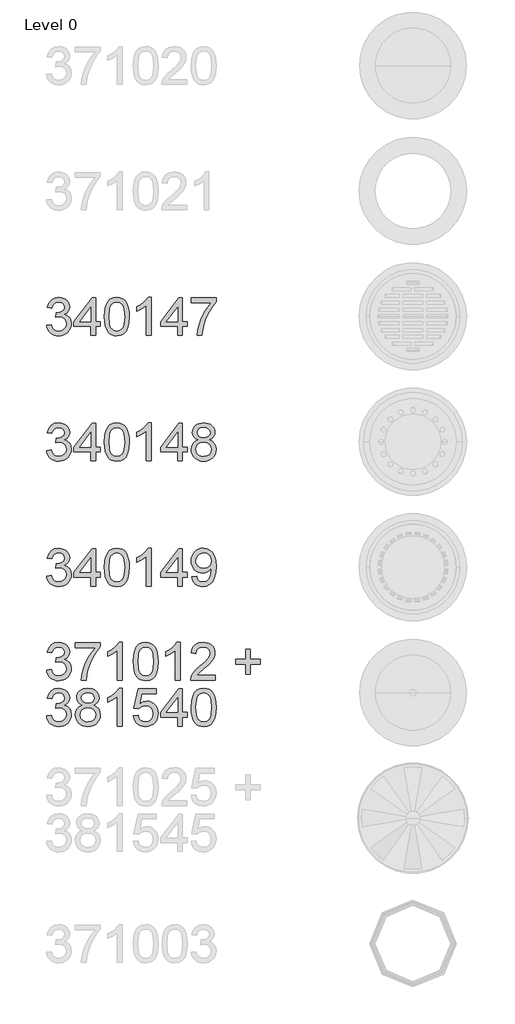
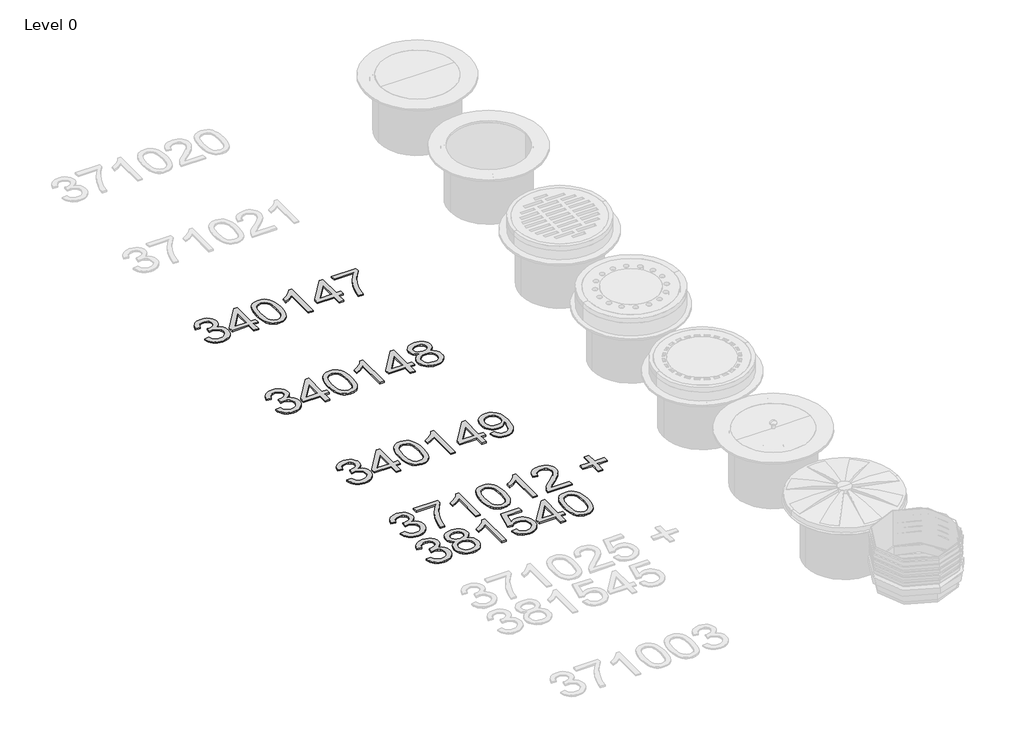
# One storey, part 23 of 25: 4 proxies.
"""IFC4 building model written with IfcOpenShell, lengths in millimetres."""

from ifc_helpers import new_model, si_unit, origin, origin_with_axes, place, context, project, spatial, polyline, outline, extrude, element, save

model = new_model("IFC4")

# Units and contexts
model_context = context("Model", 3, world=origin())
ifc_project = project(units=[si_unit("LENGTHUNIT", "METRE", prefix="MILLI")], contexts=[model_context])

# Site, building, storey
site = spatial("IfcSite", under=ifc_project)
building = spatial("IfcBuilding", under=site)
storey = spatial("IfcBuildingStorey", under=building, Name="Level 0", Elevation=0.0)

# Proxies
placement = place(None, origin())
element("IfcBuildingElementProxy", 1, Name="300mm Arial", ObjectType="300mm Arial", at=placement, inside=storey, context=model_context, shape_type="SweptSolid", body=[
    extrude(outline(polyline([(-3192.0538732, 3879.074324), (-3154.3827568, 3883.7832135), (-3145.9490621, 3860.1100071), (-3133.5974241, 3844.1255344), (-3116.7208376, 3835.020455), (-3094.7122972, 3831.9854286), (-3068.8869812, 3836.1608892), (-3048.947777, 3848.6872712), (-3036.2006659, 3867.3756765), (-3031.9516289, 3890.0372074), (-3036.1638777, 3911.5491071), (-3048.8006242, 3928.9959107), (-3067.930488, 3940.5566024), (-3091.6220885, 3944.4101663), (-3118.0360157, 3940.289888), (-3113.842161, 3977.9610043), (-3107.8088963, 3977.5195459), (-3085.2393359, 3980.2234785), (-3065.0610084, 3988.3352765), (-3050.8239752, 4002.057275), (-3046.0782975, 4021.5918089), (-3049.5179941, 4037.8613901), (-3059.8370841, 4051.0591567), (-3075.5824335, 4059.8055512), (-3095.3009084, 4062.721016), (-3115.0561716, 4059.77796), (-3131.2061912, 4050.9487921), (-3142.9968091, 4036.2335123), (-3149.6738673, 4015.6321206), (-3187.3449836, 4020.3410101), (-3176.2533415, 4054.1677596), (-3156.5164724, 4079.4228585), (-3129.513934, 4095.1498138), (-3096.6252836, 4100.3921323), (-3072.9428802, 4097.8077613), (-3051.1918572, 4090.0546482), (-3032.8529397, 4077.8225719), (-3019.4068528, 4061.801311), (-3011.1570991, 4043.3428319), (-3008.4071812, 4023.7991009), (-3011.0191433, 4005.5889421), (-3018.8550298, 3989.0710405), (-3031.8044761, 3974.9995542), (-3049.7571174, 3964.1286413), (-3026.1758815, 3954.6004976), (-3008.7014868, 3938.3769016), (-2997.8857561, 3916.3407701), (-2994.2805125, 3889.3750198), (-2996.0831343, 3870.2635502), (-3001.4909997, 3852.6603967), (-3010.5041085, 3836.5655594), (-3023.122461, 3821.9790383), (-3038.4953298, 3809.8757207), (-3055.771988, 3801.2304938), (-3074.9524356, 3796.0433577), (-3096.0366724, 3794.3143123), (-3115.0929598, 3795.7904388), (-3132.4569899, 3800.2188183), (-3148.1287629, 3807.5994508), (-3162.1082787, 3817.9323364), (-3173.8299188, 3830.6104696), (-3182.7280646, 3845.0268453), (-3188.802716, 3861.1814634), (-3192.0538732, 3879.074324)])), origin_with_axes(), (0.0, 0.0, 1.0), 10.0),
    extrude(outline(polyline([(-2838.8871578, 3799.0232018), (-2838.8871578, 3869.6565449), (-2975.4449544, 3869.6565449), (-2975.4449544, 3907.3276612), (-2829.4693787, 4095.6832427), (-2801.2160415, 4095.6832427), (-2801.2160415, 3907.3276612), (-2763.5449252, 3907.3276612), (-2763.5449252, 3869.6565449), (-2801.2160415, 3869.6565449), (-2801.2160415, 3799.0232018), (-2838.8871578, 3799.0232018)]), holes=[polyline([(-2838.8871578, 3907.3276612), (-2838.8871578, 4023.7255245), (-2929.091823, 3907.3276612), (-2838.8871578, 3907.3276612)])]), origin_with_axes(), (0.0, 0.0, 1.0), 10.0),
    extrude(outline(polyline([(-2730.5826984, 3947.2796459), (-2727.8143864, 3995.5181725), (-2719.5094504, 4033.9894321), (-2705.7506637, 4063.282036), (-2686.6208, 4083.9845953), (-2661.9819034, 4096.290248), (-2631.6960181, 4100.3921323), (-2608.4826642, 4097.9641111), (-2587.6973315, 4090.6800476), (-2570.3149072, 4078.8250503), (-2557.3102787, 4062.6842278), (-2547.4878294, 4042.3955357), (-2539.6519429, 4018.0969299), (-2534.5199891, 3987.2408276), (-2532.8093378, 3947.2796459), (-2535.5500587, 3899.3170308), (-2543.7722213, 3860.9377416), (-2557.4482344, 3831.6175466), (-2576.550507, 3810.8322139), (-2601.244586, 3798.4437877), (-2631.6960181, 3794.3143123), (-2652.4445626, 3796.107737), (-2670.8386624, 3801.4880112), (-2686.8783174, 3810.4551348), (-2700.5635276, 3823.0091079), (-2713.6969148, 3845.7028285), (-2723.0779057, 3873.9791583), (-2728.7065002, 3907.8380975), (-2730.5826984, 3947.2796459)]), holes=[polyline([(-2692.9115821, 3947.3532223), (-2688.4969982, 3888.0966299), (-2682.9787682, 3867.8286312), (-2675.2532463, 3853.8008309), (-2655.5347714, 3837.4392792), (-2631.6960181, 3831.9854286), (-2607.8572648, 3837.4576733), (-2588.1387899, 3853.8744073), (-2580.413268, 3867.9252003), (-2574.895038, 3888.1886004), (-2570.4804541, 3947.3532223), (-2574.7478852, 4005.2762424), (-2580.0821742, 4025.4775625), (-2587.5501787, 4039.8387559), (-2607.2318654, 4057.0004509), (-2632.1374765, 4062.721016), (-2655.7187124, 4057.6810326), (-2674.6646351, 4042.5610826), (-2682.6476744, 4026.9260978), (-2688.3498454, 4005.8464595), (-2692.9115821, 3947.3532223)])]), origin_with_axes(), (0.0, 0.0, 1.0), 10.0),
    extrude(outline(polyline([(-2358.5804249, 3799.0232018), (-2396.2515412, 3799.0232018), (-2396.2515412, 4033.8790675), (-2431.9360947, 4008.4584217), (-2471.5937738, 3989.4389225), (-2471.5937738, 4025.0498997), (-2442.0068643, 4041.1447369), (-2416.3746863, 4060.2929948), (-2396.1687677, 4080.6552632), (-2382.8606366, 4100.3921323), (-2358.5804249, 4100.3921323), (-2358.5804249, 3799.0232018)])), origin_with_axes(), (0.0, 0.0, 1.0), 10.0),
    extrude(outline(polyline([(-2146.6803957, 3799.0232018), (-2146.6803957, 3869.6565449), (-2283.2381923, 3869.6565449), (-2283.2381923, 3907.3276612), (-2137.2626166, 4095.6832427), (-2109.0092794, 4095.6832427), (-2109.0092794, 3907.3276612), (-2071.338163, 3907.3276612), (-2071.338163, 3869.6565449), (-2109.0092794, 3869.6565449), (-2109.0092794, 3799.0232018), (-2146.6803957, 3799.0232018)]), holes=[polyline([(-2146.6803957, 3907.3276612), (-2146.6803957, 4023.7255245), (-2236.8850609, 3907.3276612), (-2146.6803957, 3907.3276612)])]), origin_with_axes(), (0.0, 0.0, 1.0), 10.0),
    extrude(outline(polyline([(-2038.3759363, 4058.0121264), (-2038.3759363, 4095.6832427), (-1840.6025757, 4095.6832427), (-1840.6025757, 4065.2226135), (-1868.7915336, 4029.547257), (-1896.7045799, 3984.17821), (-1921.3250825, 3933.2541448), (-1939.6364088, 3880.9137339), (-1948.6127295, 3841.7526956), (-1953.6159246, 3799.0232018), (-1991.2870409, 3799.0232018), (-1987.2127478, 3837.8531464), (-1976.3142437, 3884.0039427), (-1958.8858342, 3932.923051), (-1935.2218248, 3980.0579316), (-1907.593887, 4022.6678637), (-1878.273692, 4058.0121264), (-2038.3759363, 4058.0121264)])), origin_with_axes(), (0.0, 0.0, 1.0), 10.0),
])
element("IfcBuildingElementProxy", 2, Name="300mm Arial", ObjectType="300mm Arial", at=placement, inside=storey, context=model_context, shape_type="SweptSolid", body=[
    extrude(outline(polyline([(-3192.0538732, 2879.074324), (-3154.3827568, 2883.7832135), (-3145.9490621, 2860.1100071), (-3133.5974241, 2844.1255344), (-3116.7208376, 2835.020455), (-3094.7122972, 2831.9854286), (-3068.8869812, 2836.1608892), (-3048.947777, 2848.6872712), (-3036.2006659, 2867.3756765), (-3031.9516289, 2890.0372074), (-3036.1638777, 2911.5491071), (-3048.8006242, 2928.9959107), (-3067.930488, 2940.5566024), (-3091.6220885, 2944.4101663), (-3118.0360157, 2940.289888), (-3113.842161, 2977.9610043), (-3107.8088963, 2977.5195459), (-3085.2393359, 2980.2234785), (-3065.0610084, 2988.3352765), (-3050.8239752, 3002.057275), (-3046.0782975, 3021.5918089), (-3049.5179941, 3037.8613901), (-3059.8370841, 3051.0591567), (-3075.5824335, 3059.8055512), (-3095.3009084, 3062.721016), (-3115.0561716, 3059.77796), (-3131.2061912, 3050.9487921), (-3142.9968091, 3036.2335123), (-3149.6738673, 3015.6321206), (-3187.3449836, 3020.3410101), (-3176.2533415, 3054.1677596), (-3156.5164724, 3079.4228585), (-3129.513934, 3095.1498138), (-3096.6252836, 3100.3921323), (-3072.9428802, 3097.8077613), (-3051.1918572, 3090.0546482), (-3032.8529397, 3077.8225719), (-3019.4068528, 3061.801311), (-3011.1570991, 3043.3428319), (-3008.4071812, 3023.7991009), (-3011.0191433, 3005.5889421), (-3018.8550298, 2989.0710405), (-3031.8044761, 2974.9995542), (-3049.7571174, 2964.1286413), (-3026.1758815, 2954.6004976), (-3008.7014868, 2938.3769016), (-2997.8857561, 2916.3407701), (-2994.2805125, 2889.3750198), (-2996.0831343, 2870.2635502), (-3001.4909997, 2852.6603967), (-3010.5041085, 2836.5655594), (-3023.122461, 2821.9790383), (-3038.4953298, 2809.8757207), (-3055.771988, 2801.2304938), (-3074.9524356, 2796.0433577), (-3096.0366724, 2794.3143123), (-3115.0929598, 2795.7904388), (-3132.4569899, 2800.2188183), (-3148.1287629, 2807.5994508), (-3162.1082787, 2817.9323364), (-3173.8299188, 2830.6104696), (-3182.7280646, 2845.0268453), (-3188.802716, 2861.1814634), (-3192.0538732, 2879.074324)])), origin_with_axes(), (0.0, 0.0, 1.0), 10.0),
    extrude(outline(polyline([(-2838.8871578, 2799.0232018), (-2838.8871578, 2869.6565449), (-2975.4449544, 2869.6565449), (-2975.4449544, 2907.3276612), (-2829.4693787, 3095.6832427), (-2801.2160415, 3095.6832427), (-2801.2160415, 2907.3276612), (-2763.5449252, 2907.3276612), (-2763.5449252, 2869.6565449), (-2801.2160415, 2869.6565449), (-2801.2160415, 2799.0232018), (-2838.8871578, 2799.0232018)]), holes=[polyline([(-2838.8871578, 2907.3276612), (-2838.8871578, 3023.7255245), (-2929.091823, 2907.3276612), (-2838.8871578, 2907.3276612)])]), origin_with_axes(), (0.0, 0.0, 1.0), 10.0),
    extrude(outline(polyline([(-2730.5826984, 2947.2796459), (-2727.8143864, 2995.5181725), (-2719.5094504, 3033.9894321), (-2705.7506637, 3063.282036), (-2686.6208, 3083.9845953), (-2661.9819034, 3096.290248), (-2631.6960181, 3100.3921323), (-2608.4826642, 3097.9641111), (-2587.6973315, 3090.6800476), (-2570.3149072, 3078.8250503), (-2557.3102787, 3062.6842278), (-2547.4878294, 3042.3955357), (-2539.6519429, 3018.0969299), (-2534.5199891, 2987.2408276), (-2532.8093378, 2947.2796459), (-2535.5500587, 2899.3170308), (-2543.7722213, 2860.9377416), (-2557.4482344, 2831.6175466), (-2576.550507, 2810.8322139), (-2601.244586, 2798.4437877), (-2631.6960181, 2794.3143123), (-2652.4445626, 2796.107737), (-2670.8386624, 2801.4880112), (-2686.8783174, 2810.4551348), (-2700.5635276, 2823.0091079), (-2713.6969148, 2845.7028285), (-2723.0779057, 2873.9791583), (-2728.7065002, 2907.8380975), (-2730.5826984, 2947.2796459)]), holes=[polyline([(-2692.9115821, 2947.3532223), (-2688.4969982, 2888.0966299), (-2682.9787682, 2867.8286312), (-2675.2532463, 2853.8008309), (-2655.5347714, 2837.4392792), (-2631.6960181, 2831.9854286), (-2607.8572648, 2837.4576733), (-2588.1387899, 2853.8744073), (-2580.413268, 2867.9252003), (-2574.895038, 2888.1886004), (-2570.4804541, 2947.3532223), (-2574.7478852, 3005.2762424), (-2580.0821742, 3025.4775625), (-2587.5501787, 3039.8387559), (-2607.2318654, 3057.0004509), (-2632.1374765, 3062.721016), (-2655.7187124, 3057.6810326), (-2674.6646351, 3042.5610826), (-2682.6476744, 3026.9260978), (-2688.3498454, 3005.8464595), (-2692.9115821, 2947.3532223)])]), origin_with_axes(), (0.0, 0.0, 1.0), 10.0),
    extrude(outline(polyline([(-2358.5804249, 2799.0232018), (-2396.2515412, 2799.0232018), (-2396.2515412, 3033.8790675), (-2431.9360947, 3008.4584217), (-2471.5937738, 2989.4389225), (-2471.5937738, 3025.0498997), (-2442.0068643, 3041.1447369), (-2416.3746863, 3060.2929948), (-2396.1687677, 3080.6552632), (-2382.8606366, 3100.3921323), (-2358.5804249, 3100.3921323), (-2358.5804249, 2799.0232018)])), origin_with_axes(), (0.0, 0.0, 1.0), 10.0),
    extrude(outline(polyline([(-2146.6803957, 2799.0232018), (-2146.6803957, 2869.6565449), (-2283.2381923, 2869.6565449), (-2283.2381923, 2907.3276612), (-2137.2626166, 3095.6832427), (-2109.0092794, 3095.6832427), (-2109.0092794, 2907.3276612), (-2071.338163, 2907.3276612), (-2071.338163, 2869.6565449), (-2109.0092794, 2869.6565449), (-2109.0092794, 2799.0232018), (-2146.6803957, 2799.0232018)]), holes=[polyline([(-2146.6803957, 2907.3276612), (-2146.6803957, 3023.7255245), (-2236.8850609, 2907.3276612), (-2146.6803957, 2907.3276612)])]), origin_with_axes(), (0.0, 0.0, 1.0), 10.0),
    extrude(outline(polyline([(-1983.4879426, 2965.011558), (-2003.657073, 2974.9443719), (-2017.8113328, 2988.4088529), (-2026.1714511, 3005.1290896), (-2028.9581572, 3024.8291705), (-2027.440644, 3040.1928423), (-2022.8881043, 3054.2781242), (-2015.3005381, 3067.0850161), (-2004.6779455, 3078.6135182), (-1991.5307627, 3088.1416618), (-1976.369426, 3094.9474787), (-1940.0042908, 3100.3921323), (-1903.4184264, 3094.81872), (-1888.0915427, 3087.8519548), (-1874.7420248, 3078.0984834), (-1863.9262942, 3066.3446536), (-1856.2007723, 3053.3768133), (-1851.5654591, 3039.1949624), (-1850.0203548, 3023.7991009), (-1852.7702727, 3004.7336165), (-1861.0200264, 2988.2984883), (-1874.8615865, 2974.9167808), (-1894.3869234, 2965.011558), (-1871.2011606, 2953.0645903), (-1854.3245741, 2935.4706338), (-1844.0330753, 2913.0758174), (-1840.6025757, 2886.7262695), (-1842.3040299, 2867.9366966), (-1847.4083926, 2850.7106221), (-1855.9156637, 2835.0480462), (-1867.8258433, 2820.9489687), (-1882.513532, 2809.2963065), (-1899.3533303, 2800.9729764), (-1918.3452383, 2795.9789783), (-1939.489256, 2794.3143123), (-1960.6332737, 2795.9858761), (-1979.6251817, 2801.0005675), (-1996.46498, 2809.3583866), (-2011.1526686, 2821.0593333), (-2023.0628482, 2835.2572791), (-2031.5701194, 2851.1060953), (-2036.6744821, 2868.6057819), (-2038.3759363, 2887.7563391), (-2034.8074809, 2915.1267595), (-2024.1021149, 2937.6411376), (-2006.8116611, 2954.5269212), (-1983.4879426, 2965.011558)]), holes=[polyline([(-1991.2870409, 3023.7255245), (-1987.9485118, 3007.2811993), (-1977.9329245, 2994.1478121), (-1961.5345845, 2985.5393734), (-1939.0477976, 2982.6698938), (-1917.0852425, 2985.5209793), (-1900.9352229, 2994.0742357), (-1891.002409, 3006.7661645), (-1887.6914711, 3022.0332673), (-1891.1127736, 3037.8797842), (-1901.3766813, 3050.9855803), (-1917.7474301, 3059.7871571), (-1939.489256, 3062.721016), (-1961.3690376, 3059.8515364), (-1977.7121953, 3051.2430977), (-1987.8933295, 3038.6247453), (-1991.2870409, 3023.7255245)]), polyline([(-2000.70482, 2889.0807142), (-1994.4140379, 2860.7170124), (-1985.7044316, 2848.5493154), (-1972.1571771, 2839.4902213), (-1955.9335812, 2833.8616268), (-1939.1949504, 2831.9854286), (-1913.5535753, 2835.930963), (-1894.313347, 2847.7675662), (-1882.2836057, 2865.6926164), (-1878.273692, 2887.9034919), (-1882.4123644, 2910.4914464), (-1894.8283818, 2928.8119697), (-1914.5100685, 2940.9520756), (-1940.4457492, 2944.9987775), (-1965.7284393, 2941.0072579), (-1984.7755296, 2929.0326989), (-1996.7224974, 2911.0616635), (-2000.70482, 2889.0807142)])]), origin_with_axes(), (0.0, 0.0, 1.0), 10.0),
])
element("IfcBuildingElementProxy", 3, Name="300mm Arial", ObjectType="300mm Arial", at=placement, inside=storey, context=model_context, shape_type="SweptSolid", body=[
    extrude(outline(polyline([(-3192.0538732, 1879.074324), (-3154.3827568, 1883.7832135), (-3145.9490621, 1860.1100071), (-3133.5974241, 1844.1255344), (-3116.7208376, 1835.020455), (-3094.7122972, 1831.9854286), (-3068.8869812, 1836.1608892), (-3048.947777, 1848.6872712), (-3036.2006659, 1867.3756765), (-3031.9516289, 1890.0372074), (-3036.1638777, 1911.5491071), (-3048.8006242, 1928.9959107), (-3067.930488, 1940.5566024), (-3091.6220885, 1944.4101663), (-3118.0360157, 1940.289888), (-3113.842161, 1977.9610043), (-3107.8088963, 1977.5195459), (-3085.2393359, 1980.2234785), (-3065.0610084, 1988.3352765), (-3050.8239752, 2002.057275), (-3046.0782975, 2021.5918089), (-3049.5179941, 2037.8613901), (-3059.8370841, 2051.0591567), (-3075.5824335, 2059.8055512), (-3095.3009084, 2062.721016), (-3115.0561716, 2059.77796), (-3131.2061912, 2050.9487921), (-3142.9968091, 2036.2335123), (-3149.6738673, 2015.6321206), (-3187.3449836, 2020.3410101), (-3176.2533415, 2054.1677596), (-3156.5164724, 2079.4228585), (-3129.513934, 2095.1498138), (-3096.6252836, 2100.3921323), (-3072.9428802, 2097.8077613), (-3051.1918572, 2090.0546482), (-3032.8529397, 2077.8225719), (-3019.4068528, 2061.801311), (-3011.1570991, 2043.3428319), (-3008.4071812, 2023.7991009), (-3011.0191433, 2005.5889421), (-3018.8550298, 1989.0710405), (-3031.8044761, 1974.9995542), (-3049.7571174, 1964.1286413), (-3026.1758815, 1954.6004976), (-3008.7014868, 1938.3769016), (-2997.8857561, 1916.3407701), (-2994.2805125, 1889.3750198), (-2996.0831343, 1870.2635502), (-3001.4909997, 1852.6603967), (-3010.5041085, 1836.5655594), (-3023.122461, 1821.9790383), (-3038.4953298, 1809.8757207), (-3055.771988, 1801.2304938), (-3074.9524356, 1796.0433577), (-3096.0366724, 1794.3143123), (-3115.0929598, 1795.7904388), (-3132.4569899, 1800.2188183), (-3148.1287629, 1807.5994508), (-3162.1082787, 1817.9323364), (-3173.8299188, 1830.6104696), (-3182.7280646, 1845.0268453), (-3188.802716, 1861.1814634), (-3192.0538732, 1879.074324)])), origin_with_axes(), (0.0, 0.0, 1.0), 10.0),
    extrude(outline(polyline([(-2838.8871578, 1799.0232018), (-2838.8871578, 1869.6565449), (-2975.4449544, 1869.6565449), (-2975.4449544, 1907.3276612), (-2829.4693787, 2095.6832427), (-2801.2160415, 2095.6832427), (-2801.2160415, 1907.3276612), (-2763.5449252, 1907.3276612), (-2763.5449252, 1869.6565449), (-2801.2160415, 1869.6565449), (-2801.2160415, 1799.0232018), (-2838.8871578, 1799.0232018)]), holes=[polyline([(-2838.8871578, 1907.3276612), (-2838.8871578, 2023.7255245), (-2929.091823, 1907.3276612), (-2838.8871578, 1907.3276612)])]), origin_with_axes(), (0.0, 0.0, 1.0), 10.0),
    extrude(outline(polyline([(-2730.5826984, 1947.2796459), (-2727.8143864, 1995.5181725), (-2719.5094504, 2033.9894321), (-2705.7506637, 2063.282036), (-2686.6208, 2083.9845953), (-2661.9819034, 2096.290248), (-2631.6960181, 2100.3921323), (-2608.4826642, 2097.9641111), (-2587.6973315, 2090.6800476), (-2570.3149072, 2078.8250503), (-2557.3102787, 2062.6842278), (-2547.4878294, 2042.3955357), (-2539.6519429, 2018.0969299), (-2534.5199891, 1987.2408276), (-2532.8093378, 1947.2796459), (-2535.5500587, 1899.3170308), (-2543.7722213, 1860.9377416), (-2557.4482344, 1831.6175466), (-2576.550507, 1810.8322139), (-2601.244586, 1798.4437877), (-2631.6960181, 1794.3143123), (-2652.4445626, 1796.107737), (-2670.8386624, 1801.4880112), (-2686.8783174, 1810.4551348), (-2700.5635276, 1823.0091079), (-2713.6969148, 1845.7028285), (-2723.0779057, 1873.9791583), (-2728.7065002, 1907.8380975), (-2730.5826984, 1947.2796459)]), holes=[polyline([(-2692.9115821, 1947.3532223), (-2688.4969982, 1888.0966299), (-2682.9787682, 1867.8286312), (-2675.2532463, 1853.8008309), (-2655.5347714, 1837.4392792), (-2631.6960181, 1831.9854286), (-2607.8572648, 1837.4576733), (-2588.1387899, 1853.8744073), (-2580.413268, 1867.9252003), (-2574.895038, 1888.1886004), (-2570.4804541, 1947.3532223), (-2574.7478852, 2005.2762424), (-2580.0821742, 2025.4775625), (-2587.5501787, 2039.8387559), (-2607.2318654, 2057.0004509), (-2632.1374765, 2062.721016), (-2655.7187124, 2057.6810326), (-2674.6646351, 2042.5610826), (-2682.6476744, 2026.9260978), (-2688.3498454, 2005.8464595), (-2692.9115821, 1947.3532223)])]), origin_with_axes(), (0.0, 0.0, 1.0), 10.0),
    extrude(outline(polyline([(-2358.5804249, 1799.0232018), (-2396.2515412, 1799.0232018), (-2396.2515412, 2033.8790675), (-2431.9360947, 2008.4584217), (-2471.5937738, 1989.4389225), (-2471.5937738, 2025.0498997), (-2442.0068643, 2041.1447369), (-2416.3746863, 2060.2929948), (-2396.1687677, 2080.6552632), (-2382.8606366, 2100.3921323), (-2358.5804249, 2100.3921323), (-2358.5804249, 1799.0232018)])), origin_with_axes(), (0.0, 0.0, 1.0), 10.0),
    extrude(outline(polyline([(-2146.6803957, 1799.0232018), (-2146.6803957, 1869.6565449), (-2283.2381923, 1869.6565449), (-2283.2381923, 1907.3276612), (-2137.2626166, 2095.6832427), (-2109.0092794, 2095.6832427), (-2109.0092794, 1907.3276612), (-2071.338163, 1907.3276612), (-2071.338163, 1869.6565449), (-2109.0092794, 1869.6565449), (-2109.0092794, 1799.0232018), (-2146.6803957, 1799.0232018)]), holes=[polyline([(-2146.6803957, 1907.3276612), (-2146.6803957, 2023.7255245), (-2236.8850609, 1907.3276612), (-2146.6803957, 1907.3276612)])]), origin_with_axes(), (0.0, 0.0, 1.0), 10.0),
    extrude(outline(polyline([(-2033.6670467, 1874.3654344), (-1995.9959304, 1879.074324), (-1989.5579955, 1857.691183), (-1979.0733587, 1843.132253), (-1964.7995372, 1834.7721347), (-1946.9940487, 1831.9854286), (-1931.018773, 1833.7788533), (-1916.4966313, 1839.1591275), (-1904.4301018, 1847.5376399), (-1895.8216632, 1858.3257794), (-1883.4976163, 1891.067277), (-1878.0529628, 1934.771658), (-1878.273692, 1942.1292979), (-1891.3243058, 1926.2000076), (-1908.4032274, 1913.5816551), (-1928.2780522, 1905.3594925), (-1949.7163754, 1902.6187717), (-1967.6115352, 1904.2926347), (-1984.0673567, 1909.314224), (-1999.0838399, 1917.6835394), (-2012.6609848, 1929.4005809), (-2023.9112761, 1943.8537448), (-2031.9471984, 1960.4314272), (-2036.7687518, 1979.1336281), (-2038.3759363, 1999.9603476), (-2036.6905769, 2021.4814443), (-2031.6344987, 2040.7952491), (-2023.2077018, 2057.9017618), (-2011.410186, 2072.8009826), (-1997.0742845, 2084.8721106), (-1981.0323303, 2093.4943449), (-1963.2843233, 2098.6676854), (-1943.8302635, 2100.3921323), (-1915.7332761, 2096.4557949), (-1890.1562804, 2084.6467829), (-1868.7639424, 2065.5537073), (-1853.2209281, 2039.7651795), (-1843.7571638, 2004.1174141), (-1840.6025757, 1955.4466262), (-1843.7479667, 1903.8419793), (-1853.1841399, 1863.954374), (-1868.8283218, 1833.9811884), (-1890.5977388, 1812.1198009), (-1917.554292, 1798.7656844), (-1948.7598823, 1794.3143123), (-1980.9679509, 1799.5658278), (-2006.6645083, 1815.3203742), (-2024.6355438, 1840.5846702), (-2033.6670467, 1874.3654344)]), holes=[polyline([(-1878.273692, 2000.8432644), (-1882.338788, 2026.3742748), (-1894.5340762, 2046.0191734), (-1913.4616048, 2058.5455553), (-1937.7234224, 2062.721016), (-1962.8865509, 2058.2236586), (-1983.0464842, 2044.7315864), (-1996.290236, 2024.0842094), (-2000.70482, 1998.1209376), (-1996.5293593, 1974.8432044), (-1984.0029774, 1956.3663312), (-1964.3396848, 1944.3089988), (-1938.753492, 1940.289888), (-1914.6848125, 1944.3089988), (-1895.3066284, 1956.3663312), (-1882.5319261, 1975.5237861), (-1878.273692, 2000.8432644)])]), origin_with_axes(), (0.0, 0.0, 1.0), 10.0),
])
element("IfcBuildingElementProxy", 4, Name="300mm Arial", ObjectType="300mm Arial", at=placement, inside=storey, context=model_context, shape_type="SweptSolid", body=[
    extrude(outline(polyline([(-3192.0538732, 1129.074324), (-3154.3827568, 1133.7832135), (-3145.9490621, 1110.1100071), (-3133.5974241, 1094.1255344), (-3116.7208376, 1085.020455), (-3094.7122972, 1081.9854286), (-3068.8869812, 1086.1608892), (-3048.947777, 1098.6872712), (-3036.2006659, 1117.3756765), (-3031.9516289, 1140.0372074), (-3036.1638777, 1161.5491071), (-3048.8006242, 1178.9959107), (-3067.930488, 1190.5566024), (-3091.6220885, 1194.4101663), (-3118.0360157, 1190.289888), (-3113.842161, 1227.9610043), (-3107.8088963, 1227.5195459), (-3085.2393359, 1230.2234785), (-3065.0610084, 1238.3352765), (-3050.8239752, 1252.057275), (-3046.0782975, 1271.5918089), (-3049.5179941, 1287.8613901), (-3059.8370841, 1301.0591567), (-3075.5824335, 1309.8055512), (-3095.3009084, 1312.721016), (-3115.0561716, 1309.77796), (-3131.2061912, 1300.9487921), (-3142.9968091, 1286.2335123), (-3149.6738673, 1265.6321206), (-3187.3449836, 1270.3410101), (-3176.2533415, 1304.1677596), (-3156.5164724, 1329.4228585), (-3129.513934, 1345.1498138), (-3096.6252836, 1350.3921323), (-3072.9428802, 1347.8077613), (-3051.1918572, 1340.0546482), (-3032.8529397, 1327.8225719), (-3019.4068528, 1311.801311), (-3011.1570991, 1293.3428319), (-3008.4071812, 1273.7991009), (-3011.0191433, 1255.5889421), (-3018.8550298, 1239.0710405), (-3031.8044761, 1224.9995542), (-3049.7571174, 1214.1286413), (-3026.1758815, 1204.6004976), (-3008.7014868, 1188.3769016), (-2997.8857561, 1166.3407701), (-2994.2805125, 1139.3750198), (-2996.0831343, 1120.2635502), (-3001.4909997, 1102.6603967), (-3010.5041085, 1086.5655594), (-3023.122461, 1071.9790383), (-3038.4953298, 1059.8757207), (-3055.771988, 1051.2304938), (-3074.9524356, 1046.0433577), (-3096.0366724, 1044.3143123), (-3115.0929598, 1045.7904388), (-3132.4569899, 1050.2188183), (-3148.1287629, 1057.5994508), (-3162.1082787, 1067.9323364), (-3173.8299188, 1080.6104696), (-3182.7280646, 1095.0268453), (-3188.802716, 1111.1814634), (-3192.0538732, 1129.074324)])), origin_with_axes(), (0.0, 0.0, 1.0), 10.0),
    extrude(outline(polyline([(-2961.3182858, 1308.0121264), (-2961.3182858, 1345.6832427), (-2763.5449252, 1345.6832427), (-2763.5449252, 1315.2226135), (-2791.7338831, 1279.547257), (-2819.6469294, 1234.17821), (-2844.267432, 1183.2541448), (-2862.5787583, 1130.9137339), (-2871.555079, 1091.7526956), (-2876.5582741, 1049.0232018), (-2914.2293904, 1049.0232018), (-2910.1550973, 1087.8531464), (-2899.2565932, 1134.0039427), (-2881.8281837, 1182.923051), (-2858.1641743, 1230.0579316), (-2830.5362365, 1272.6678637), (-2801.2160415, 1308.0121264), (-2961.3182858, 1308.0121264)])), origin_with_axes(), (0.0, 0.0, 1.0), 10.0),
    extrude(outline(polyline([(-2589.3160123, 1049.0232018), (-2626.9871286, 1049.0232018), (-2626.9871286, 1283.8790675), (-2662.6716821, 1258.4584217), (-2702.3293612, 1239.4389225), (-2702.3293612, 1275.0498997), (-2672.7424517, 1291.1447369), (-2647.1102737, 1310.2929948), (-2626.9043551, 1330.6552632), (-2613.5962239, 1350.3921323), (-2589.3160123, 1350.3921323), (-2589.3160123, 1049.0232018)])), origin_with_axes(), (0.0, 0.0, 1.0), 10.0),
    extrude(outline(polyline([(-2499.847111, 1197.2796459), (-2497.078799, 1245.5181725), (-2488.773863, 1283.9894321), (-2475.0150764, 1313.282036), (-2455.8852126, 1333.9845953), (-2431.246316, 1346.290248), (-2400.9604307, 1350.3921323), (-2377.7470768, 1347.9641111), (-2356.9617441, 1340.6800476), (-2339.5793198, 1328.8250503), (-2326.5746913, 1312.6842278), (-2316.752242, 1292.3955357), (-2308.9163555, 1268.0969299), (-2303.7844017, 1237.2408276), (-2302.0737504, 1197.2796459), (-2304.8144713, 1149.3170308), (-2313.0366339, 1110.9377416), (-2326.7126471, 1081.6175466), (-2345.8149197, 1060.8322139), (-2370.5089986, 1048.4437877), (-2400.9604307, 1044.3143123), (-2421.7089753, 1046.107737), (-2440.103075, 1051.4880112), (-2456.14273, 1060.4551348), (-2469.8279402, 1073.0091079), (-2482.9613275, 1095.7028285), (-2492.3423183, 1123.9791583), (-2497.9709129, 1157.8380975), (-2499.847111, 1197.2796459)]), holes=[polyline([(-2462.1759947, 1197.3532223), (-2457.7614108, 1138.0966299), (-2452.2431809, 1117.8286312), (-2444.517659, 1103.8008309), (-2424.799184, 1087.4392792), (-2400.9604307, 1081.9854286), (-2377.1216774, 1087.4576733), (-2357.4032025, 1103.8744073), (-2349.6776806, 1117.9252003), (-2344.1594507, 1138.1886004), (-2339.7448667, 1197.3532223), (-2344.0122979, 1255.2762424), (-2349.3465868, 1275.4775625), (-2356.8145913, 1289.8387559), (-2376.496278, 1307.0004509), (-2401.4018891, 1312.721016), (-2424.983125, 1307.6810326), (-2443.9290478, 1292.5610826), (-2451.9120871, 1276.9260978), (-2457.614258, 1255.8464595), (-2462.1759947, 1197.3532223)])]), origin_with_axes(), (0.0, 0.0, 1.0), 10.0),
    extrude(outline(polyline([(-2127.8448375, 1049.0232018), (-2165.5159538, 1049.0232018), (-2165.5159538, 1283.8790675), (-2201.2005073, 1258.4584217), (-2240.8581864, 1239.4389225), (-2240.8581864, 1275.0498997), (-2211.271277, 1291.1447369), (-2185.639099, 1310.2929948), (-2165.4331804, 1330.6552632), (-2152.1250492, 1350.3921323), (-2127.8448375, 1350.3921323), (-2127.8448375, 1049.0232018)])), origin_with_axes(), (0.0, 0.0, 1.0), 10.0),
    extrude(outline(polyline([(-1845.3114652, 1086.6943181), (-1845.3114652, 1049.0232018), (-2043.0848258, 1049.0232018), (-2039.0381239, 1074.9956707), (-2029.7491035, 1095.2935598), (-2016.1558638, 1114.9844436), (-1996.4925711, 1135.5950323), (-1968.993392, 1158.6520364), (-1928.3424315, 1194.7596542), (-1903.9518552, 1221.4127048), (-1891.7565671, 1243.0441661), (-1887.6914711, 1264.0870162), (-1891.5266409, 1282.9501655), (-1903.0321503, 1298.6311355), (-1920.7180772, 1309.1985459), (-1943.0944995, 1312.721016), (-1966.592962, 1309.2813193), (-1984.849106, 1298.9622293), (-1996.6305269, 1282.5730865), (-2000.70482, 1260.923231), (-2038.3759363, 1265.6321206), (-2029.2432658, 1302.0708322), (-2020.6969072, 1316.6067695), (-2009.4971997, 1328.6870946), (-1995.9016607, 1338.1830486), (-1980.1678076, 1344.9658728), (-1942.2851591, 1350.3921323), (-1922.0953354, 1348.8838161), (-1904.1265992, 1344.3588675), (-1888.3789505, 1336.8172866), (-1874.8523894, 1326.2590734), (-1863.9883743, 1313.465977), (-1856.2283634, 1299.2197467), (-1851.5723569, 1283.5203826), (-1850.0203548, 1266.3678846), (-1851.6942178, 1248.3508639), (-1856.7158071, 1230.6465428), (-1865.6277484, 1212.6387192), (-1878.9726678, 1193.7111905), (-1900.2454441, 1171.114039), (-1932.9409565, 1142.0973466), (-1976.2774555, 1105.8609701), (-1993.2736037, 1086.6943181), (-1845.3114652, 1086.6943181)])), origin_with_axes(), (0.0, 0.0, 1.0), 10.0),
    extrude(outline(polyline([(-1605.1580988, 1096.1120972), (-1605.1580988, 1176.1632194), (-1685.2092209, 1176.1632194), (-1685.2092209, 1213.8343357), (-1605.1580988, 1213.8343357), (-1605.1580988, 1293.8854578), (-1567.4869825, 1293.8854578), (-1567.4869825, 1213.8343357), (-1487.4358603, 1213.8343357), (-1487.4358603, 1176.1632194), (-1567.4869825, 1176.1632194), (-1567.4869825, 1096.1120972), (-1605.1580988, 1096.1120972)])), origin_with_axes(), (0.0, 0.0, 1.0), 10.0),
    extrude(outline(polyline([(-3192.0538732, 763.1498704), (-3154.3827568, 767.85876), (-3145.9490621, 744.1855536), (-3133.5974241, 728.2010809), (-3116.7208376, 719.0960015), (-3094.7122972, 716.0609751), (-3068.8869812, 720.2364357), (-3048.947777, 732.7628176), (-3036.2006659, 751.451223), (-3031.9516289, 774.1127539), (-3036.1638777, 795.6246536), (-3048.8006242, 813.0714572), (-3067.930488, 824.6321489), (-3091.6220885, 828.4857128), (-3118.0360157, 824.3654344), (-3113.842161, 862.0365507), (-3107.8088963, 861.5950923), (-3085.2393359, 864.299025), (-3065.0610084, 872.410823), (-3050.8239752, 886.1328214), (-3046.0782975, 905.6673554), (-3049.5179941, 921.9369366), (-3059.8370841, 935.1347032), (-3075.5824335, 943.8810976), (-3095.3009084, 946.7965624), (-3115.0561716, 943.8535065), (-3131.2061912, 935.0243386), (-3142.9968091, 920.3090588), (-3149.6738673, 899.707667), (-3187.3449836, 904.4165566), (-3176.2533415, 938.243306), (-3156.5164724, 963.498405), (-3129.513934, 979.2253603), (-3096.6252836, 984.4676787), (-3072.9428802, 981.8833077), (-3051.1918572, 974.1301947), (-3032.8529397, 961.8981183), (-3019.4068528, 945.8768574), (-3011.1570991, 927.4183783), (-3008.4071812, 907.8746473), (-3011.0191433, 889.6644886), (-3018.8550298, 873.146587), (-3031.8044761, 859.0751007), (-3049.7571174, 848.2041877), (-3026.1758815, 838.676044), (-3008.7014868, 822.4524481), (-2997.8857561, 800.4163165), (-2994.2805125, 773.4505663), (-2996.0831343, 754.3390967), (-3001.4909997, 736.7359432), (-3010.5041085, 720.6411059), (-3023.122461, 706.0545848), (-3038.4953298, 693.9512671), (-3055.771988, 685.3060403), (-3074.9524356, 680.1189041), (-3096.0366724, 678.3898587), (-3115.0929598, 679.8659853), (-3132.4569899, 684.2943648), (-3148.1287629, 691.6749973), (-3162.1082787, 702.0078828), (-3173.8299188, 714.6860161), (-3182.7280646, 729.1023918), (-3188.802716, 745.2570099), (-3192.0538732, 763.1498704)])), origin_with_axes(), (0.0, 0.0, 1.0), 10.0),
    extrude(outline(polyline([(-2906.4302921, 849.0871045), (-2926.5994225, 859.0199184), (-2940.7536823, 872.4843994), (-2949.1138006, 889.2046361), (-2951.9005067, 908.9047169), (-2950.3829935, 924.2683887), (-2945.8304538, 938.3536706), (-2938.2428876, 951.1605626), (-2927.620295, 962.6890646), (-2914.4731122, 972.2172083), (-2899.3117755, 979.0230252), (-2862.9466403, 984.4676787), (-2826.3607758, 978.8942665), (-2811.0338922, 971.9275012), (-2797.6843743, 962.1740298), (-2786.8686437, 950.4202001), (-2779.1431218, 937.4523598), (-2774.5078086, 923.2705088), (-2772.9627043, 907.8746473), (-2775.7126222, 888.8091629), (-2783.9623759, 872.3740348), (-2797.803936, 858.9923272), (-2817.3292729, 849.0871045), (-2794.1435101, 837.1401367), (-2777.2669236, 819.5461803), (-2766.9754248, 797.1513638), (-2763.5449252, 770.8018159), (-2765.2463794, 752.012243), (-2770.3507421, 734.7861686), (-2778.8580132, 719.1235927), (-2790.7681928, 705.0245152), (-2805.4558815, 693.371853), (-2822.2956798, 685.0485229), (-2841.2875878, 680.0545248), (-2862.4316055, 678.3898587), (-2883.5756231, 680.0614226), (-2902.5675312, 685.076114), (-2919.4073295, 693.4339331), (-2934.0950181, 705.1348798), (-2946.0051977, 719.3328255), (-2954.5124689, 735.1816418), (-2959.6168316, 752.6813284), (-2961.3182858, 771.8318855), (-2957.7498304, 799.202306), (-2947.0444644, 821.7166841), (-2929.7540106, 838.6024676), (-2906.4302921, 849.0871045)]), holes=[polyline([(-2914.2293904, 907.8010709), (-2910.8908613, 891.3567458), (-2900.875274, 878.2233585), (-2884.476934, 869.6149198), (-2861.9901471, 866.7454403), (-2840.027592, 869.5965257), (-2823.8775724, 878.1497821), (-2813.9447585, 890.841711), (-2810.6338206, 906.1088138), (-2814.0551231, 921.9553307), (-2824.3190308, 935.0611268), (-2840.6897796, 943.8627035), (-2862.4316055, 946.7965624), (-2884.3113871, 943.9270829), (-2900.6545448, 935.3186442), (-2910.835679, 922.7002917), (-2914.2293904, 907.8010709)]), polyline([(-2923.6471695, 773.1562607), (-2917.3563874, 744.7925589), (-2908.6467811, 732.6248619), (-2895.0995266, 723.5657678), (-2878.8759307, 717.9371732), (-2862.1372999, 716.0609751), (-2836.4959248, 720.0065095), (-2817.2556965, 731.8431126), (-2805.2259552, 749.7681629), (-2801.2160415, 771.9790383), (-2805.3547139, 794.5669928), (-2817.7707313, 812.8875162), (-2837.452418, 825.027622), (-2863.3880987, 829.074324), (-2888.6707888, 825.0828043), (-2907.7178791, 813.1082454), (-2919.6648469, 795.1372099), (-2923.6471695, 773.1562607)])]), origin_with_axes(), (0.0, 0.0, 1.0), 10.0),
    extrude(outline(polyline([(-2589.3160123, 683.0987483), (-2626.9871286, 683.0987483), (-2626.9871286, 917.954614), (-2662.6716821, 892.5339681), (-2702.3293612, 873.514469), (-2702.3293612, 909.1254461), (-2672.7424517, 925.2202834), (-2647.1102737, 944.3685413), (-2626.9043551, 964.7308097), (-2613.5962239, 984.4676787), (-2589.3160123, 984.4676787), (-2589.3160123, 683.0987483)])), origin_with_axes(), (0.0, 0.0, 1.0), 10.0),
    extrude(outline(polyline([(-2499.847111, 763.1498704), (-2462.1759947, 767.85876), (-2455.2598132, 745.2432143), (-2443.1932838, 729.0472095), (-2426.0315887, 719.3075337), (-2403.8299103, 716.0609751), (-2376.8273718, 720.5767265), (-2356.5938621, 734.123981), (-2343.9571156, 755.13924), (-2339.7448667, 782.059005), (-2343.6904011, 807.4060745), (-2355.5270043, 826.7934556), (-2375.3466468, 839.0991083), (-2403.2412991, 843.2009926), (-2421.5158372, 841.5639177), (-2436.3138905, 836.6526931), (-2457.4671052, 819.6565449), (-2495.1382215, 824.3654344), (-2462.1759947, 979.7587892), (-2316.200419, 979.7587892), (-2316.200419, 942.0876729), (-2431.7153655, 942.0876729), (-2447.8285969, 859.0934948), (-2420.918029, 875.4274554), (-2392.719874, 880.8721089), (-2374.3740588, 879.1844502), (-2357.5227641, 874.1214743), (-2342.1659901, 865.683181), (-2328.3037367, 853.8695704), (-2316.8281177, 839.402611), (-2308.631247, 823.0042711), (-2303.7131246, 804.6745506), (-2302.0737504, 784.4134498), (-2307.9782564, 746.7423335), (-2315.358889, 729.9485204), (-2325.6917745, 714.5158707), (-2341.3451534, 698.7107405), (-2359.6104945, 687.4213617), (-2380.4877977, 680.6477345), (-2403.9770631, 678.3898587), (-2440.9767948, 684.1931972), (-2456.6554655, 691.4473703), (-2470.4533396, 701.6032126), (-2481.9335571, 714.1548865), (-2490.6592582, 728.596554), (-2499.847111, 763.1498704)])), origin_with_axes(), (0.0, 0.0, 1.0), 10.0),
    extrude(outline(polyline([(-2146.6803957, 683.0987483), (-2146.6803957, 753.7320914), (-2283.2381923, 753.7320914), (-2283.2381923, 791.4032077), (-2137.2626166, 979.7587892), (-2109.0092794, 979.7587892), (-2109.0092794, 791.4032077), (-2071.338163, 791.4032077), (-2071.338163, 753.7320914), (-2109.0092794, 753.7320914), (-2109.0092794, 683.0987483), (-2146.6803957, 683.0987483)]), holes=[polyline([(-2146.6803957, 791.4032077), (-2146.6803957, 907.8010709), (-2236.8850609, 791.4032077), (-2146.6803957, 791.4032077)])]), origin_with_axes(), (0.0, 0.0, 1.0), 10.0),
    extrude(outline(polyline([(-2038.3759363, 831.3551923), (-2035.6076243, 879.593719), (-2027.3026882, 918.0649786), (-2013.5439016, 947.3575825), (-1994.4140379, 968.0601418), (-1969.7751412, 980.3657945), (-1939.489256, 984.4676787), (-1916.2759021, 982.0396576), (-1895.4905694, 974.7555941), (-1878.1081451, 962.9005968), (-1865.1035166, 946.7597742), (-1855.2810673, 926.4710822), (-1847.4451808, 902.1724764), (-1842.313227, 871.3163741), (-1840.6025757, 831.3551923), (-1843.3432965, 783.3925772), (-1851.5654591, 745.0132881), (-1865.2414723, 715.6930931), (-1884.3437449, 694.9077603), (-1909.0378238, 682.5193341), (-1939.489256, 678.3898587), (-1960.2378005, 680.1832835), (-1978.6319003, 685.5635577), (-1994.6715553, 694.5306813), (-2008.3567655, 707.0846544), (-2021.4901527, 729.7783749), (-2030.8711436, 758.0547048), (-2036.4997381, 791.9136439), (-2038.3759363, 831.3551923)]), holes=[polyline([(-2000.70482, 831.4287687), (-1996.290236, 772.1721764), (-1990.7720061, 751.9041777), (-1983.0464842, 737.8763774), (-1963.3280093, 721.5148256), (-1939.489256, 716.0609751), (-1915.6505027, 721.5332197), (-1895.9320277, 737.9499538), (-1888.2065058, 752.0007467), (-1882.6882759, 772.2641469), (-1878.273692, 831.4287687), (-1882.5411231, 889.3517889), (-1887.8754121, 909.5531089), (-1895.3434166, 923.9143023), (-1915.0251033, 941.0759974), (-1939.9307144, 946.7965624), (-1963.5119503, 941.7565791), (-1982.457873, 926.6366291), (-1990.4409123, 911.0016443), (-1996.1430832, 889.922006), (-2000.70482, 831.4287687)])]), origin_with_axes(), (0.0, 0.0, 1.0), 10.0),
])

save(model, "model.ifc")
